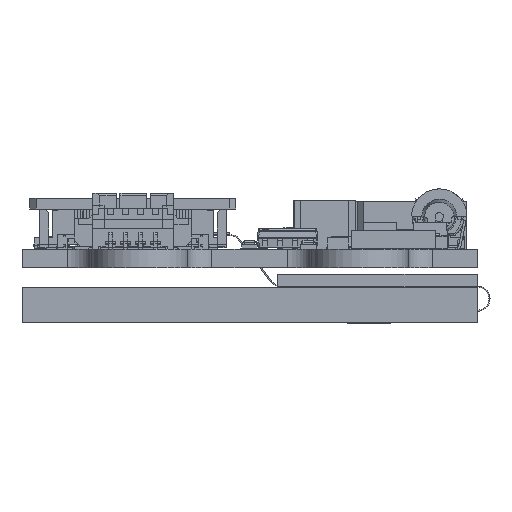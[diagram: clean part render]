
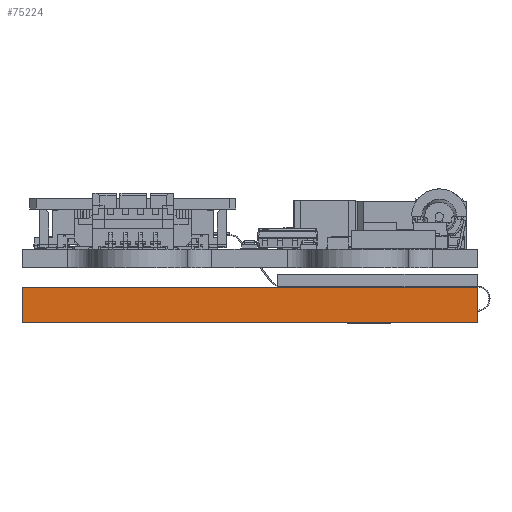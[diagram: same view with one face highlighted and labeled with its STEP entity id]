
A CAD part, left-side view. The second image highlights one B-rep face of the part: STEP entity #75224.
In plain terms, the highlighted planar face has unit normal (-1, 0, 0) as drawn and (1, 0, 0) by its records, which use the part's own axes.
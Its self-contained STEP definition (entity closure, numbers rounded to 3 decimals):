
#1664 = AXIS2_PLACEMENT_3D ( 'NONE', #105136, #69849, #12184 ) ;
#8659 = ORIENTED_EDGE ( 'NONE', *, *, #55867, .T. ) ;
#12184 = DIRECTION ( 'NONE',  ( 0., -1., 0. ) ) ;
#21198 = EDGE_CURVE ( 'NONE', #68082, #108551, #109137, .T. ) ;
#30363 = CARTESIAN_POINT ( 'NONE',  ( 52.75, 18.9, 0. ) ) ;
#34494 = ORIENTED_EDGE ( 'NONE', *, *, #86338, .F. ) ;
#35685 = DIRECTION ( 'NONE',  ( 0., 0., -1. ) ) ;
#49959 = ORIENTED_EDGE ( 'NONE', *, *, #21198, .T. ) ;
#55867 = EDGE_CURVE ( 'NONE', #108551, #121364, #146946, .T. ) ;
#57459 = PLANE ( 'NONE',  #1664 ) ;
#58044 = VECTOR ( 'NONE', #108531, 1000. ) ;
#62573 = VERTEX_POINT ( 'NONE', #147703 ) ;
#68082 = VERTEX_POINT ( 'NONE', #76724 ) ;
#69541 = EDGE_LOOP ( 'NONE', ( #8659, #150363, #34494, #49959 ) ) ;
#69849 = DIRECTION ( 'NONE',  ( -1., 0., 0. ) ) ;
#75224 = ADVANCED_FACE ( 'NONE', ( #152899 ), #57459, .F. ) ;
#76724 = CARTESIAN_POINT ( 'NONE',  ( 52.75, -18.9, 2.95 ) ) ;
#78034 = LINE ( 'NONE', #125070, #107825 ) ;
#83448 = LINE ( 'NONE', #95992, #58044 ) ;
#86338 = EDGE_CURVE ( 'NONE', #68082, #62573, #83448, .T. ) ;
#95992 = CARTESIAN_POINT ( 'NONE',  ( 52.75, 18.9, 2.95 ) ) ;
#96619 = CARTESIAN_POINT ( 'NONE',  ( 52.75, -18.9, 2.95 ) ) ;
#101722 = CARTESIAN_POINT ( 'NONE',  ( 52.75, -18.9, 0. ) ) ;
#105136 = CARTESIAN_POINT ( 'NONE',  ( 52.75, 18.9, 2.95 ) ) ;
#107825 = VECTOR ( 'NONE', #148588, 1000. ) ;
#108531 = DIRECTION ( 'NONE',  ( 0., 1., 0. ) ) ;
#108551 = VERTEX_POINT ( 'NONE', #101722 ) ;
#109137 = LINE ( 'NONE', #96619, #116860 ) ;
#110617 = CARTESIAN_POINT ( 'NONE',  ( 52.75, 18.9, 0. ) ) ;
#110910 = DIRECTION ( 'NONE',  ( 0., 1., 0. ) ) ;
#115225 = VECTOR ( 'NONE', #110910, 1000. ) ;
#116860 = VECTOR ( 'NONE', #35685, 1000. ) ;
#118451 = EDGE_CURVE ( 'NONE', #62573, #121364, #78034, .T. ) ;
#121364 = VERTEX_POINT ( 'NONE', #110617 ) ;
#125070 = CARTESIAN_POINT ( 'NONE',  ( 52.75, 18.9, 2.95 ) ) ;
#146946 = LINE ( 'NONE', #30363, #115225 ) ;
#147703 = CARTESIAN_POINT ( 'NONE',  ( 52.75, 18.9, 2.95 ) ) ;
#148588 = DIRECTION ( 'NONE',  ( 0., 0., -1. ) ) ;
#150363 = ORIENTED_EDGE ( 'NONE', *, *, #118451, .F. ) ;
#152899 = FACE_OUTER_BOUND ( 'NONE', #69541, .T. ) ;
